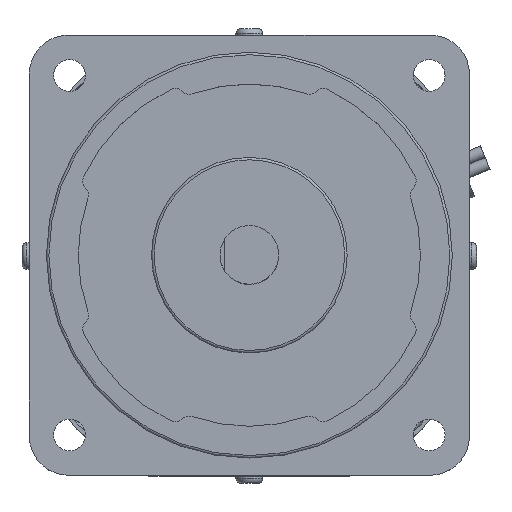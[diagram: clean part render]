
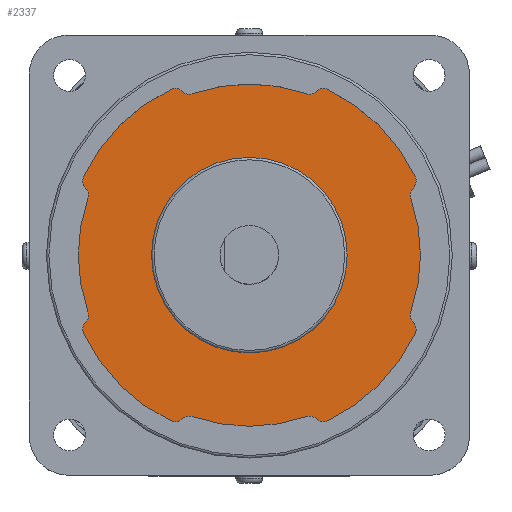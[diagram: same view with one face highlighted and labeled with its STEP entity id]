
A CAD part, top view. The second image highlights one B-rep face of the part: STEP entity #2337.
In plain terms, the highlighted planar face has unit normal (0, 0, 1).
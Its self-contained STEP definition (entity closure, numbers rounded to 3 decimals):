
#987=CARTESIAN_POINT('',(20.0,0.,116.0));
#988=VERTEX_POINT('',#987);
#989=CARTESIAN_POINT('',(0.,0.,116.0));
#990=DIRECTION('',(0.0,0.0,-1.0));
#991=DIRECTION('',(-1.0,0.0,0.0));
#992=AXIS2_PLACEMENT_3D('',#989,#990,#991);
#993=CIRCLE('',#992,20.0);
#994=EDGE_CURVE('',#988,#988,#993,.T.);
#1017=CARTESIAN_POINT('',(-13.722,-33.501,116.0));
#1018=VERTEX_POINT('',#1017);
#1034=CARTESIAN_POINT('',(-11.626,-33.013,116.0));
#1035=VERTEX_POINT('',#1034);
#1042=CARTESIAN_POINT('',(-12.291,-34.899,116.0));
#1043=DIRECTION('',(0.0,0.0,-1.0));
#1044=DIRECTION('',(-0.408,0.913,0.0));
#1045=AXIS2_PLACEMENT_3D('',#1042,#1043,#1044);
#1046=CIRCLE('',#1045,2.0);
#1047=EDGE_CURVE('',#1035,#1018,#1046,.F.);
#1067=CARTESIAN_POINT('',(11.626,-33.013,116.0));
#1068=VERTEX_POINT('',#1067);
#1075=CARTESIAN_POINT('',(0.,0.,116.));
#1076=DIRECTION('',(0.,0.,1.0));
#1077=DIRECTION('',(-0.383,-0.924,0.));
#1078=AXIS2_PLACEMENT_3D('',#1075,#1076,#1077);
#1079=CIRCLE('',#1078,35.0);
#1080=EDGE_CURVE('',#1035,#1068,#1079,.T.);
#1090=CARTESIAN_POINT('',(13.722,-33.501,116.0));
#1091=VERTEX_POINT('',#1090);
#1100=CARTESIAN_POINT('',(12.291,-34.899,116.0));
#1101=DIRECTION('',(0.0,0.0,-1.0));
#1102=DIRECTION('',(0.408,0.913,0.0));
#1103=AXIS2_PLACEMENT_3D('',#1100,#1101,#1102);
#1104=CIRCLE('',#1103,2.0);
#1105=EDGE_CURVE('',#1091,#1068,#1104,.F.);
#1132=CARTESIAN_POINT('',(16.006,-33.913,116.0));
#1133=VERTEX_POINT('',#1132);
#1140=CARTESIAN_POINT('',(15.152,-32.104,116.0));
#1141=DIRECTION('',(0.0,0.0,1.0));
#1142=DIRECTION('',(0.715,0.699,0.0));
#1143=AXIS2_PLACEMENT_3D('',#1140,#1141,#1142);
#1144=CIRCLE('',#1143,2.);
#1145=EDGE_CURVE('',#1091,#1133,#1144,.T.);
#1156=CARTESIAN_POINT('',(33.913,-16.006,116.0));
#1157=VERTEX_POINT('',#1156);
#1166=CARTESIAN_POINT('',(0.,0.,116.));
#1167=DIRECTION('',(0.,0.,1.0));
#1168=DIRECTION('',(0.383,-0.924,0.));
#1169=AXIS2_PLACEMENT_3D('',#1166,#1167,#1168);
#1170=CIRCLE('',#1169,37.5);
#1171=EDGE_CURVE('',#1133,#1157,#1170,.T.);
#1198=CARTESIAN_POINT('',(33.501,-13.722,116.0));
#1199=VERTEX_POINT('',#1198);
#1206=CARTESIAN_POINT('',(32.104,-15.152,116.0));
#1207=DIRECTION('',(0.0,0.0,1.0));
#1208=DIRECTION('',(-0.904,0.427,0.0));
#1209=AXIS2_PLACEMENT_3D('',#1206,#1207,#1208);
#1210=CIRCLE('',#1209,2.);
#1211=EDGE_CURVE('',#1157,#1199,#1210,.T.);
#1232=CARTESIAN_POINT('',(33.013,-11.626,116.0));
#1233=VERTEX_POINT('',#1232);
#1240=CARTESIAN_POINT('',(34.899,-12.291,116.0));
#1241=DIRECTION('',(0.0,0.0,-1.0));
#1242=DIRECTION('',(-0.913,-0.408,0.0));
#1243=AXIS2_PLACEMENT_3D('',#1240,#1241,#1242);
#1244=CIRCLE('',#1243,2.0);
#1245=EDGE_CURVE('',#1233,#1199,#1244,.F.);
#1255=CARTESIAN_POINT('',(33.013,11.626,116.0));
#1256=VERTEX_POINT('',#1255);
#1265=CARTESIAN_POINT('',(0.,0.,116.));
#1266=DIRECTION('',(0.,0.,1.0));
#1267=DIRECTION('',(0.924,-0.383,0.));
#1268=AXIS2_PLACEMENT_3D('',#1265,#1266,#1267);
#1269=CIRCLE('',#1268,35.);
#1270=EDGE_CURVE('',#1233,#1256,#1269,.T.);
#1288=CARTESIAN_POINT('',(33.501,13.722,116.0));
#1289=VERTEX_POINT('',#1288);
#1298=CARTESIAN_POINT('',(34.899,12.291,116.0));
#1299=DIRECTION('',(0.0,0.0,-1.0));
#1300=DIRECTION('',(-0.913,0.408,0.0));
#1301=AXIS2_PLACEMENT_3D('',#1298,#1299,#1300);
#1302=CIRCLE('',#1301,2.0);
#1303=EDGE_CURVE('',#1289,#1256,#1302,.F.);
#1330=CARTESIAN_POINT('',(33.913,16.006,116.0));
#1331=VERTEX_POINT('',#1330);
#1338=CARTESIAN_POINT('',(32.104,15.152,116.0));
#1339=DIRECTION('',(0.0,0.0,1.0));
#1340=DIRECTION('',(-0.699,0.715,0.0));
#1341=AXIS2_PLACEMENT_3D('',#1338,#1339,#1340);
#1342=CIRCLE('',#1341,2.);
#1343=EDGE_CURVE('',#1289,#1331,#1342,.T.);
#1354=CARTESIAN_POINT('',(16.006,33.913,116.0));
#1355=VERTEX_POINT('',#1354);
#1364=CARTESIAN_POINT('',(0.,0.,116.));
#1365=DIRECTION('',(0.,0.,1.0));
#1366=DIRECTION('',(0.924,0.383,0.));
#1367=AXIS2_PLACEMENT_3D('',#1364,#1365,#1366);
#1368=CIRCLE('',#1367,37.5);
#1369=EDGE_CURVE('',#1331,#1355,#1368,.T.);
#1396=CARTESIAN_POINT('',(13.722,33.501,116.0));
#1397=VERTEX_POINT('',#1396);
#1404=CARTESIAN_POINT('',(15.152,32.104,116.0));
#1405=DIRECTION('',(0.0,0.0,1.0));
#1406=DIRECTION('',(-0.427,-0.904,0.0));
#1407=AXIS2_PLACEMENT_3D('',#1404,#1405,#1406);
#1408=CIRCLE('',#1407,2.);
#1409=EDGE_CURVE('',#1355,#1397,#1408,.T.);
#1430=CARTESIAN_POINT('',(11.626,33.013,116.0));
#1431=VERTEX_POINT('',#1430);
#1438=CARTESIAN_POINT('',(12.291,34.899,116.0));
#1439=DIRECTION('',(0.0,0.0,-1.0));
#1440=DIRECTION('',(0.408,-0.913,0.0));
#1441=AXIS2_PLACEMENT_3D('',#1438,#1439,#1440);
#1442=CIRCLE('',#1441,2.0);
#1443=EDGE_CURVE('',#1431,#1397,#1442,.F.);
#1453=CARTESIAN_POINT('',(-11.626,33.013,116.0));
#1454=VERTEX_POINT('',#1453);
#1463=CARTESIAN_POINT('',(0.,0.,116.));
#1464=DIRECTION('',(0.,0.,1.0));
#1465=DIRECTION('',(0.383,0.924,0.));
#1466=AXIS2_PLACEMENT_3D('',#1463,#1464,#1465);
#1467=CIRCLE('',#1466,35.0);
#1468=EDGE_CURVE('',#1431,#1454,#1467,.T.);
#1486=CARTESIAN_POINT('',(-13.722,33.501,116.0));
#1487=VERTEX_POINT('',#1486);
#1496=CARTESIAN_POINT('',(-12.291,34.899,116.0));
#1497=DIRECTION('',(0.0,0.0,-1.0));
#1498=DIRECTION('',(-0.408,-0.913,0.0));
#1499=AXIS2_PLACEMENT_3D('',#1496,#1497,#1498);
#1500=CIRCLE('',#1499,2.0);
#1501=EDGE_CURVE('',#1487,#1454,#1500,.F.);
#1528=CARTESIAN_POINT('',(-16.006,33.913,116.0));
#1529=VERTEX_POINT('',#1528);
#1536=CARTESIAN_POINT('',(-15.152,32.104,116.0));
#1537=DIRECTION('',(0.0,0.0,1.0));
#1538=DIRECTION('',(-0.715,-0.699,0.0));
#1539=AXIS2_PLACEMENT_3D('',#1536,#1537,#1538);
#1540=CIRCLE('',#1539,2.);
#1541=EDGE_CURVE('',#1487,#1529,#1540,.T.);
#1562=CARTESIAN_POINT('',(-33.913,16.006,116.0));
#1563=VERTEX_POINT('',#1562);
#1570=CARTESIAN_POINT('',(0.,0.,116.));
#1571=DIRECTION('',(0.,0.,1.0));
#1572=DIRECTION('',(-0.383,0.924,0.));
#1573=AXIS2_PLACEMENT_3D('',#1570,#1571,#1572);
#1574=CIRCLE('',#1573,37.5);
#1575=EDGE_CURVE('',#1529,#1563,#1574,.T.);
#1594=CARTESIAN_POINT('',(-33.501,13.722,116.0));
#1595=VERTEX_POINT('',#1594);
#1602=CARTESIAN_POINT('',(-32.104,15.152,116.0));
#1603=DIRECTION('',(0.0,0.0,1.0));
#1604=DIRECTION('',(0.904,-0.427,0.0));
#1605=AXIS2_PLACEMENT_3D('',#1602,#1603,#1604);
#1606=CIRCLE('',#1605,2.);
#1607=EDGE_CURVE('',#1563,#1595,#1606,.T.);
#1628=CARTESIAN_POINT('',(-33.013,11.626,116.0));
#1629=VERTEX_POINT('',#1628);
#1636=CARTESIAN_POINT('',(-34.899,12.291,116.0));
#1637=DIRECTION('',(0.0,0.0,-1.0));
#1638=DIRECTION('',(0.913,0.408,0.0));
#1639=AXIS2_PLACEMENT_3D('',#1636,#1637,#1638);
#1640=CIRCLE('',#1639,2.0);
#1641=EDGE_CURVE('',#1629,#1595,#1640,.F.);
#1651=CARTESIAN_POINT('',(-33.013,-11.626,116.0));
#1652=VERTEX_POINT('',#1651);
#1661=CARTESIAN_POINT('',(0.,0.,116.));
#1662=DIRECTION('',(0.,0.,1.0));
#1663=DIRECTION('',(-0.924,0.383,0.));
#1664=AXIS2_PLACEMENT_3D('',#1661,#1662,#1663);
#1665=CIRCLE('',#1664,35.0);
#1666=EDGE_CURVE('',#1629,#1652,#1665,.T.);
#1684=CARTESIAN_POINT('',(-33.501,-13.722,116.0));
#1685=VERTEX_POINT('',#1684);
#1694=CARTESIAN_POINT('',(-34.899,-12.291,116.0));
#1695=DIRECTION('',(0.0,0.0,-1.0));
#1696=DIRECTION('',(0.913,-0.408,0.0));
#1697=AXIS2_PLACEMENT_3D('',#1694,#1695,#1696);
#1698=CIRCLE('',#1697,2.0);
#1699=EDGE_CURVE('',#1685,#1652,#1698,.F.);
#1726=CARTESIAN_POINT('',(-33.913,-16.006,116.0));
#1727=VERTEX_POINT('',#1726);
#1734=CARTESIAN_POINT('',(-32.104,-15.152,116.0));
#1735=DIRECTION('',(0.0,0.0,1.0));
#1736=DIRECTION('',(0.699,-0.715,0.0));
#1737=AXIS2_PLACEMENT_3D('',#1734,#1735,#1736);
#1738=CIRCLE('',#1737,2.);
#1739=EDGE_CURVE('',#1685,#1727,#1738,.T.);
#1750=CARTESIAN_POINT('',(-16.006,-33.913,116.0));
#1751=VERTEX_POINT('',#1750);
#1760=CARTESIAN_POINT('',(0.,0.,116.));
#1761=DIRECTION('',(0.,0.,1.0));
#1762=DIRECTION('',(-0.924,-0.383,0.));
#1763=AXIS2_PLACEMENT_3D('',#1760,#1761,#1762);
#1764=CIRCLE('',#1763,37.5);
#1765=EDGE_CURVE('',#1727,#1751,#1764,.T.);
#1791=CARTESIAN_POINT('',(-15.152,-32.104,116.0));
#1792=DIRECTION('',(0.0,0.0,1.0));
#1793=DIRECTION('',(0.427,0.904,0.0));
#1794=AXIS2_PLACEMENT_3D('',#1791,#1792,#1793);
#1795=CIRCLE('',#1794,2.);
#1796=EDGE_CURVE('',#1751,#1018,#1795,.T.);
#2303=CARTESIAN_POINT('',(0.,0.,116.0));
#2304=DIRECTION('',(0.0,0.0,1.0));
#2305=DIRECTION('',(1.0,0.0,0.0));
#2306=AXIS2_PLACEMENT_3D('',#2303,#2304,#2305);
#2307=PLANE('',#2306);
#2308=ORIENTED_EDGE('',*,*,#1796,.T.);
#2309=ORIENTED_EDGE('',*,*,#1047,.F.);
#2310=ORIENTED_EDGE('',*,*,#1080,.T.);
#2311=ORIENTED_EDGE('',*,*,#1105,.F.);
#2312=ORIENTED_EDGE('',*,*,#1145,.T.);
#2313=ORIENTED_EDGE('',*,*,#1171,.T.);
#2314=ORIENTED_EDGE('',*,*,#1211,.T.);
#2315=ORIENTED_EDGE('',*,*,#1245,.F.);
#2316=ORIENTED_EDGE('',*,*,#1270,.T.);
#2317=ORIENTED_EDGE('',*,*,#1303,.F.);
#2318=ORIENTED_EDGE('',*,*,#1343,.T.);
#2319=ORIENTED_EDGE('',*,*,#1369,.T.);
#2320=ORIENTED_EDGE('',*,*,#1409,.T.);
#2321=ORIENTED_EDGE('',*,*,#1443,.F.);
#2322=ORIENTED_EDGE('',*,*,#1468,.T.);
#2323=ORIENTED_EDGE('',*,*,#1501,.F.);
#2324=ORIENTED_EDGE('',*,*,#1541,.T.);
#2325=ORIENTED_EDGE('',*,*,#1575,.T.);
#2326=ORIENTED_EDGE('',*,*,#1607,.T.);
#2327=ORIENTED_EDGE('',*,*,#1641,.F.);
#2328=ORIENTED_EDGE('',*,*,#1666,.T.);
#2329=ORIENTED_EDGE('',*,*,#1699,.F.);
#2330=ORIENTED_EDGE('',*,*,#1739,.T.);
#2331=ORIENTED_EDGE('',*,*,#1765,.T.);
#2332=EDGE_LOOP('',(#2308,#2309,#2310,#2311,#2312,#2313,#2314,#2315,#2316,#2317,#2318,#2319,#2320,#2321,#2322,#2323,#2324,#2325,#2326,#2327,#2328,#2329,#2330,#2331));
#2333=FACE_OUTER_BOUND('',#2332,.T.);
#2334=ORIENTED_EDGE('',*,*,#994,.T.);
#2335=EDGE_LOOP('',(#2334));
#2336=FACE_BOUND('',#2335,.T.);
#2337=ADVANCED_FACE('',(#2333,#2336),#2307,.T.);
